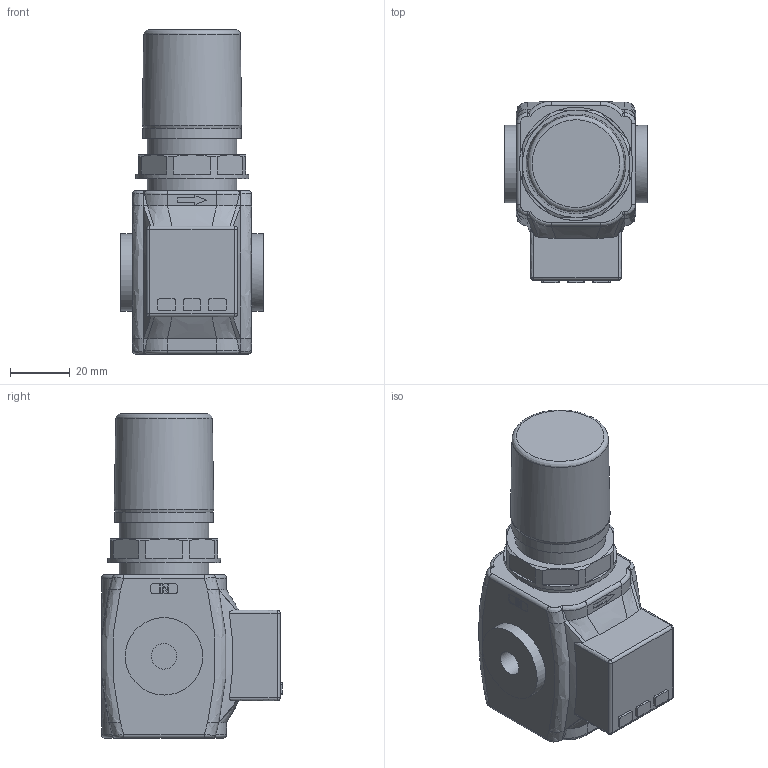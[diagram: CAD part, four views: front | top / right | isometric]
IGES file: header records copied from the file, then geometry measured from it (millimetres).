
Global section: file name: No Iges File Name specified; native system: Autodesk Inventor 2013; preprocessor: AutoDesk Inventor Iges Exporter R2013; author: valotma1; date: 20130924.134040; units: millimetre
Bounding box: 48 x 60.8 x 109 mm (x, y, z)
Volume: 155669.2 mm3; surface area: 26499.1 mm2
Topology: 2 solids, 3 shells, 354 faces, 843 edges, 533 vertices
Faces by surface type: bspline 354
